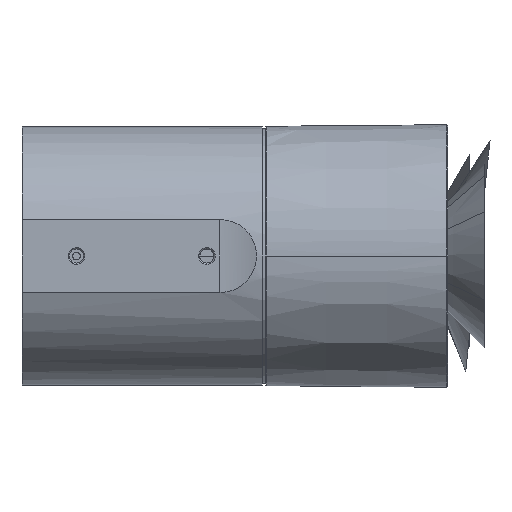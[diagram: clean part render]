
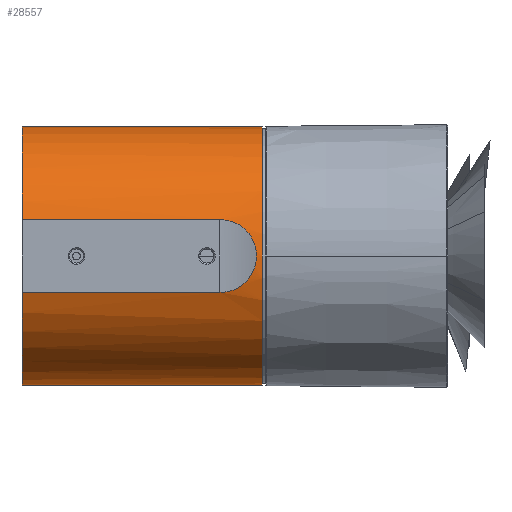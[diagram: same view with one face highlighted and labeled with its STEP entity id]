
A CAD part, left-side view. The second image highlights one B-rep face of the part: STEP entity #28557.
In plain terms, the highlighted cylindrical face has radius 19.85 mm (diameter 39.7 mm), a partial arc.
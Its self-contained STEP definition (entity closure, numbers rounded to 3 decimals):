
#27908=VECTOR('Line Direction',#27907,1.) ;
#28491=VECTOR('Line Direction',#28490,1.) ;
#28532=VECTOR('Line Direction',#28531,1.) ;
#28537=VECTOR('Line Direction',#28536,1.) ;
#27907=DIRECTION('Vector Direction',(0.,-1.,0.)) ;
#28485=DIRECTION('Axis2P3D Direction',(0.,-1.,0.)) ;
#28486=DIRECTION('Axis2P3D XDirection',(0.,0.,1.)) ;
#28490=DIRECTION('Vector Direction',(0.,-1.,0.)) ;
#28531=DIRECTION('Vector Direction',(0.,-1.,0.)) ;
#28536=DIRECTION('Vector Direction',(0.,-1.,0.)) ;
#28543=DIRECTION('Axis2P3D Direction',(0.,-1.,0.)) ;
#27903=CARTESIAN_POINT('Vertex',(19.5,65.35,0.35)) ;
#27906=CARTESIAN_POINT('Line Origine',(19.5,46.925,0.35)) ;
#27910=CARTESIAN_POINT('Vertex',(19.5,28.5,0.35)) ;
#28024=CARTESIAN_POINT('Vertex',(19.5,65.35,-39.35)) ;
#28028=CARTESIAN_POINT('Control Point',(0.45,65.35,-25.079)) ;
#28029=CARTESIAN_POINT('Control Point',(1.002,65.35,-26.964)) ;
#28030=CARTESIAN_POINT('Control Point',(1.787,65.35,-28.78)) ;
#28031=CARTESIAN_POINT('Control Point',(2.795,65.35,-30.491)) ;
#28032=CARTESIAN_POINT('Control Point',(5.211,65.35,-33.626)) ;
#28033=CARTESIAN_POINT('Control Point',(8.319,65.35,-36.078)) ;
#28034=CARTESIAN_POINT('Control Point',(10.017,65.35,-37.105)) ;
#28035=CARTESIAN_POINT('Control Point',(12.908,65.35,-38.394)) ;
#28036=CARTESIAN_POINT('Control Point',(15.979,65.35,-39.089)) ;
#28037=CARTESIAN_POINT('Control Point',(17.147,65.35,-39.263)) ;
#28038=CARTESIAN_POINT('Control Point',(18.324,65.35,-39.35)) ;
#28039=CARTESIAN_POINT('Control Point',(19.5,65.35,-39.35)) ;
#28040=CARTESIAN_POINT('Vertex',(0.45,65.35,-25.079)) ;
#28047=CARTESIAN_POINT('Vertex',(0.45,65.35,-13.921)) ;
#28051=CARTESIAN_POINT('Control Point',(19.5,65.35,0.35)) ;
#28052=CARTESIAN_POINT('Control Point',(17.536,65.35,0.35)) ;
#28053=CARTESIAN_POINT('Control Point',(15.571,65.35,0.107)) ;
#28054=CARTESIAN_POINT('Control Point',(13.647,65.35,-0.379)) ;
#28055=CARTESIAN_POINT('Control Point',(9.959,65.35,-1.817)) ;
#28056=CARTESIAN_POINT('Control Point',(6.732,65.35,-4.11)) ;
#28057=CARTESIAN_POINT('Control Point',(5.269,65.35,-5.452)) ;
#28058=CARTESIAN_POINT('Control Point',(3.22,65.35,-7.864)) ;
#28059=CARTESIAN_POINT('Control Point',(1.69,65.35,-10.616)) ;
#28060=CARTESIAN_POINT('Control Point',(1.195,65.35,-11.688)) ;
#28061=CARTESIAN_POINT('Control Point',(0.781,65.35,-12.793)) ;
#28062=CARTESIAN_POINT('Control Point',(0.45,65.35,-13.921)) ;
#28484=CARTESIAN_POINT('Axis2P3D Location',(19.5,113.974,-19.5)) ;
#28489=CARTESIAN_POINT('Line Origine',(0.45,113.974,-13.921)) ;
#28493=CARTESIAN_POINT('Vertex',(0.45,35.,-13.921)) ;
#28497=CARTESIAN_POINT('Control Point',(0.45,35.,-25.079)) ;
#28498=CARTESIAN_POINT('Control Point',(0.45,34.653,-25.079)) ;
#28499=CARTESIAN_POINT('Control Point',(0.443,34.307,-25.054)) ;
#28500=CARTESIAN_POINT('Control Point',(0.428,33.967,-25.003)) ;
#28501=CARTESIAN_POINT('Control Point',(0.376,33.18,-24.823)) ;
#28502=CARTESIAN_POINT('Control Point',(0.292,32.436,-24.512)) ;
#28503=CARTESIAN_POINT('Control Point',(0.235,32.032,-24.292)) ;
#28504=CARTESIAN_POINT('Control Point',(0.109,31.281,-23.77)) ;
#28505=CARTESIAN_POINT('Control Point',(-0.024,30.654,-23.106)) ;
#28506=CARTESIAN_POINT('Control Point',(-0.089,30.376,-22.743)) ;
#28507=CARTESIAN_POINT('Control Point',(-0.208,29.901,-21.958)) ;
#28508=CARTESIAN_POINT('Control Point',(-0.294,29.594,-21.087)) ;
#28509=CARTESIAN_POINT('Control Point',(-0.325,29.486,-20.644)) ;
#28510=CARTESIAN_POINT('Control Point',(-0.362,29.359,-19.724)) ;
#28511=CARTESIAN_POINT('Control Point',(-0.346,29.414,-18.798)) ;
#28512=CARTESIAN_POINT('Control Point',(-0.324,29.489,-18.341)) ;
#28513=CARTESIAN_POINT('Control Point',(-0.264,29.697,-17.563)) ;
#28514=CARTESIAN_POINT('Control Point',(-0.174,30.038,-16.838)) ;
#28515=CARTESIAN_POINT('Control Point',(-0.131,30.212,-16.535)) ;
#28516=CARTESIAN_POINT('Control Point',(-0.038,30.595,-15.968)) ;
#28517=CARTESIAN_POINT('Control Point',(0.061,31.061,-15.471)) ;
#28518=CARTESIAN_POINT('Control Point',(0.11,31.314,-15.242)) ;
#28519=CARTESIAN_POINT('Control Point',(0.19,31.764,-14.893)) ;
#28520=CARTESIAN_POINT('Control Point',(0.262,32.255,-14.606)) ;
#28521=CARTESIAN_POINT('Control Point',(0.289,32.456,-14.502)) ;
#28522=CARTESIAN_POINT('Control Point',(0.362,33.059,-14.229)) ;
#28523=CARTESIAN_POINT('Control Point',(0.414,33.7,-14.043)) ;
#28524=CARTESIAN_POINT('Control Point',(0.439,34.129,-13.96)) ;
#28525=CARTESIAN_POINT('Control Point',(0.45,34.564,-13.921)) ;
#28526=CARTESIAN_POINT('Control Point',(0.45,35.,-13.921)) ;
#28527=CARTESIAN_POINT('Vertex',(0.45,35.,-25.079)) ;
#28530=CARTESIAN_POINT('Line Origine',(0.45,113.974,-25.079)) ;
#28535=CARTESIAN_POINT('Line Origine',(19.5,113.974,-39.35)) ;
#28539=CARTESIAN_POINT('Vertex',(19.5,28.5,-39.35)) ;
#28542=CARTESIAN_POINT('Axis2P3D Location',(19.5,28.5,-19.5)) ;
#28487=AXIS2_PLACEMENT_3D('Cylinder Axis2P3D',#28484,#28485,#28486) ;
#28544=AXIS2_PLACEMENT_3D('Circle Axis2P3D',#28542,#28543,$) ;
#27912=EDGE_CURVE('',#27904,#27911,#27909,.T.) ;
#28042=EDGE_CURVE('',#28041,#28025,#28027,.T.) ;
#28063=EDGE_CURVE('',#27904,#28048,#28050,.T.) ;
#28495=EDGE_CURVE('',#28494,#28048,#28492,.F.) ;
#28529=EDGE_CURVE('',#28528,#28494,#28496,.T.) ;
#28534=EDGE_CURVE('',#28041,#28528,#28533,.T.) ;
#28541=EDGE_CURVE('',#28540,#28025,#28538,.F.) ;
#28546=EDGE_CURVE('',#28540,#27911,#28545,.F.) ;
#28548=ORIENTED_EDGE('',*,*,#27912,.F.) ;
#28549=ORIENTED_EDGE('',*,*,#28063,.T.) ;
#28550=ORIENTED_EDGE('',*,*,#28495,.F.) ;
#28551=ORIENTED_EDGE('',*,*,#28529,.F.) ;
#28552=ORIENTED_EDGE('',*,*,#28534,.F.) ;
#28553=ORIENTED_EDGE('',*,*,#28042,.T.) ;
#28554=ORIENTED_EDGE('',*,*,#28541,.F.) ;
#28555=ORIENTED_EDGE('',*,*,#28546,.T.) ;
#27909=LINE('Line',#27906,#27908) ;
#28492=LINE('Line',#28489,#28491) ;
#28533=LINE('Line',#28530,#28532) ;
#28538=LINE('Line',#28535,#28537) ;
#28557=ADVANCED_FACE('Femto bolt ME\\67\\41\\34\\MANIFOLD_SOLID_BREP #7947',(#28556),#28488,.T.) ;
#28545=CIRCLE('generated circle',#28544,19.85) ;
#28488=CYLINDRICAL_SURFACE('generated cylinder',#28487,19.85) ;
#27904=VERTEX_POINT('',#27903) ;
#27911=VERTEX_POINT('',#27910) ;
#28025=VERTEX_POINT('',#28024) ;
#28041=VERTEX_POINT('',#28040) ;
#28048=VERTEX_POINT('',#28047) ;
#28494=VERTEX_POINT('',#28493) ;
#28528=VERTEX_POINT('',#28527) ;
#28540=VERTEX_POINT('',#28539) ;
#28027=B_SPLINE_CURVE_WITH_KNOTS('',5,(#28028,#28029,#28030,#28031,#28032,#28033,#28034,#28035,#28036,#28037,#28038,#28039),.UNSPECIFIED.,.F.,.U.,(6,3,3,6),(0.,13.92,27.84,36.176),.UNSPECIFIED.) ;
#28050=B_SPLINE_CURVE_WITH_KNOTS('',5,(#28051,#28052,#28053,#28054,#28055,#28056,#28057,#28058,#28059,#28060,#28061,#28062),.UNSPECIFIED.,.F.,.U.,(6,3,3,6),(0.,13.92,27.84,36.176),.UNSPECIFIED.) ;
#28496=B_SPLINE_CURVE_WITH_KNOTS('',5,(#28497,#28498,#28499,#28500,#28501,#28502,#28503,#28504,#28505,#28506,#28507,#28508,#28509,#28510,#28511,#28512,#28513,#28514,#28515,#28516,#28517,#28518,#28519,#28520,#28521,#28522,#28523,#28524,#28525,#28526),.UNSPECIFIED.,.F.,.U.,(6,3,3,3,3,3,3,3,3,6),(0.,2.451,5.705,8.962,12.239,15.5,17.933,20.367,21.988,25.065),.UNSPECIFIED.) ;
#28547=EDGE_LOOP('',(#28548,#28549,#28550,#28551,#28552,#28553,#28554,#28555)) ;
#28556=FACE_OUTER_BOUND('',#28547,.T.) ;
